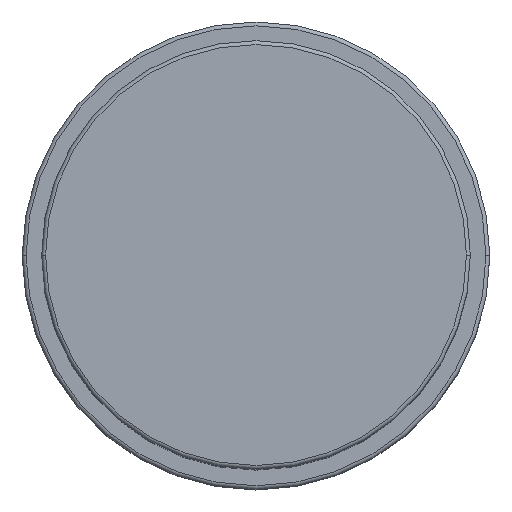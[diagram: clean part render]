
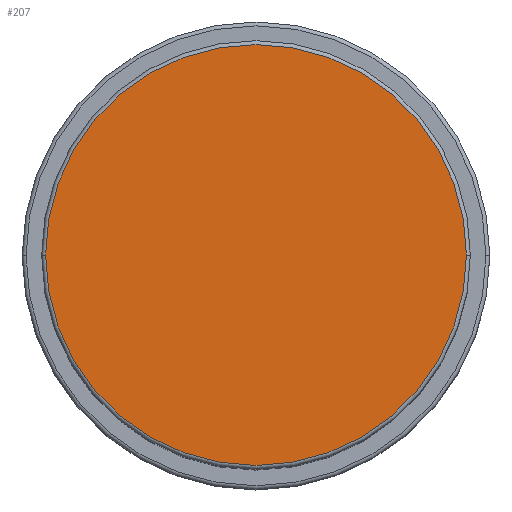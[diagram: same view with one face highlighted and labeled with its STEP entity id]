
A CAD part, top view. The second image highlights one B-rep face of the part: STEP entity #207.
In plain terms, the highlighted planar face has unit normal (0, 0, 1).
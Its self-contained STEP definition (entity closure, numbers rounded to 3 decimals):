
#95 = DIRECTION ( 'NONE',  ( 1., 0., 0. ) ) ;
#187 = DIRECTION ( 'NONE',  ( 1., 0., 0. ) ) ;
#207 = ADVANCED_FACE ( 'NONE', ( #685 ), #536, .T. ) ;
#250 = AXIS2_PLACEMENT_3D ( 'NONE', #1372, #622, #939 ) ;
#345 = CIRCLE ( 'NONE', #1574, 27. ) ;
#388 = DIRECTION ( 'NONE',  ( 0., 0., 1. ) ) ;
#447 = EDGE_CURVE ( 'NONE', #934, #1857, #345, .T. ) ;
#506 = CARTESIAN_POINT ( 'NONE',  ( -27., 0., 86. ) ) ;
#536 = PLANE ( 'NONE',  #931 ) ;
#622 = DIRECTION ( 'NONE',  ( 0., 0., 1. ) ) ;
#685 = FACE_OUTER_BOUND ( 'NONE', #1193, .T. ) ;
#858 = CARTESIAN_POINT ( 'NONE',  ( 0., 0., 86. ) ) ;
#908 = CARTESIAN_POINT ( 'NONE',  ( 27., 0., 86. ) ) ;
#931 = AXIS2_PLACEMENT_3D ( 'NONE', #858, #388, #95 ) ;
#934 = VERTEX_POINT ( 'NONE', #506 ) ;
#939 = DIRECTION ( 'NONE',  ( 1., 0., 0. ) ) ;
#950 = DIRECTION ( 'NONE',  ( 0., 0., 1. ) ) ;
#1193 = EDGE_LOOP ( 'NONE', ( #1762, #1527 ) ) ;
#1199 = EDGE_CURVE ( 'NONE', #1857, #934, #1295, .T. ) ;
#1295 = CIRCLE ( 'NONE', #250, 27. ) ;
#1372 = CARTESIAN_POINT ( 'NONE',  ( 0., 0., 86. ) ) ;
#1527 = ORIENTED_EDGE ( 'NONE', *, *, #447, .T. ) ;
#1574 = AXIS2_PLACEMENT_3D ( 'NONE', #1684, #950, #187 ) ;
#1684 = CARTESIAN_POINT ( 'NONE',  ( 0., 0., 86. ) ) ;
#1762 = ORIENTED_EDGE ( 'NONE', *, *, #1199, .T. ) ;
#1857 = VERTEX_POINT ( 'NONE', #908 ) ;
